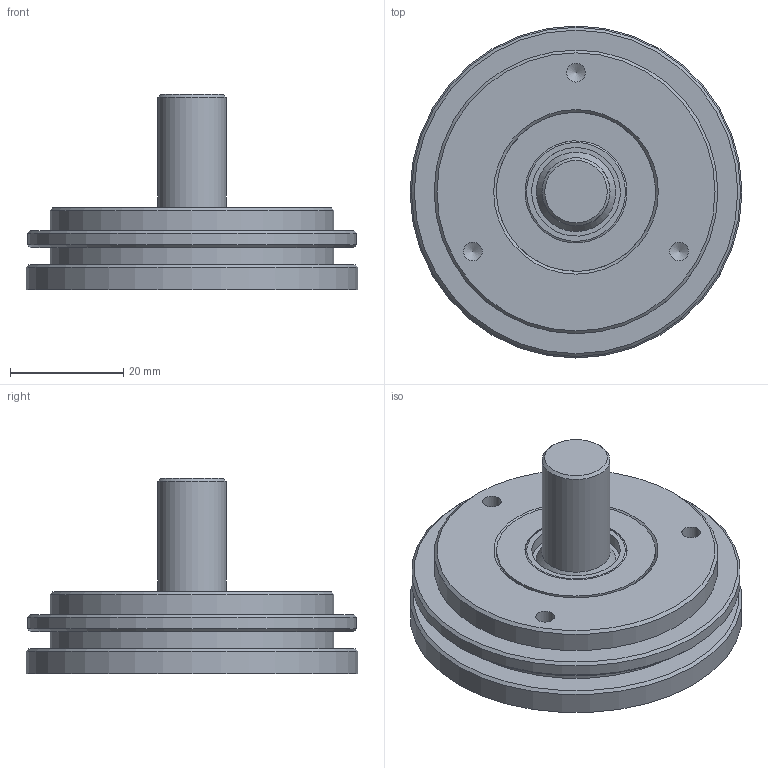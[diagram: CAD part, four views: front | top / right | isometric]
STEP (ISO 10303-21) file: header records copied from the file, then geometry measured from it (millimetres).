
FILE_DESCRIPTION (( 'STEP AP214' ), '1' );
FILE_NAME ('drawing-ucd-y12s-q5b-n.STEP', '2021-10-29T15:25:14', ( '' ), ( '' ), 'SwSTEP 2.0', 'SolidWorks 2021', '' );
FILE_SCHEMA (( 'AUTOMOTIVE_DESIGN' ));
Length unit declared in the file: millimetre
Products named in the file (1): drawing-ucd-y12s-q5b-n
Bounding box: 58.5 x 58.5 x 34.4 mm (x, y, z)
Volume: 35313.5 mm3; surface area: 12125.6 mm2
Topology: 3 solids, 3 shells, 233 faces, 589 edges, 391 vertices
Faces by surface type: plane 119, bspline 87, cylinder 14, cone 13
Full cylindrical faces by diameter (mm): 3.3 x3, 12 x1, 15.6 x1, 18 x2, 25 x1, 28 x2, 50 x2, 58 x1, 58.5 x1
Entity records: 14147 total; most frequent: CARTESIAN_POINT 6654, ORIENTED_EDGE 1104, DIRECTION 711, EDGE_CURVE 552, VERTEX_POINT 381, VECTOR 339, LINE 339, EDGE_LOOP 293
